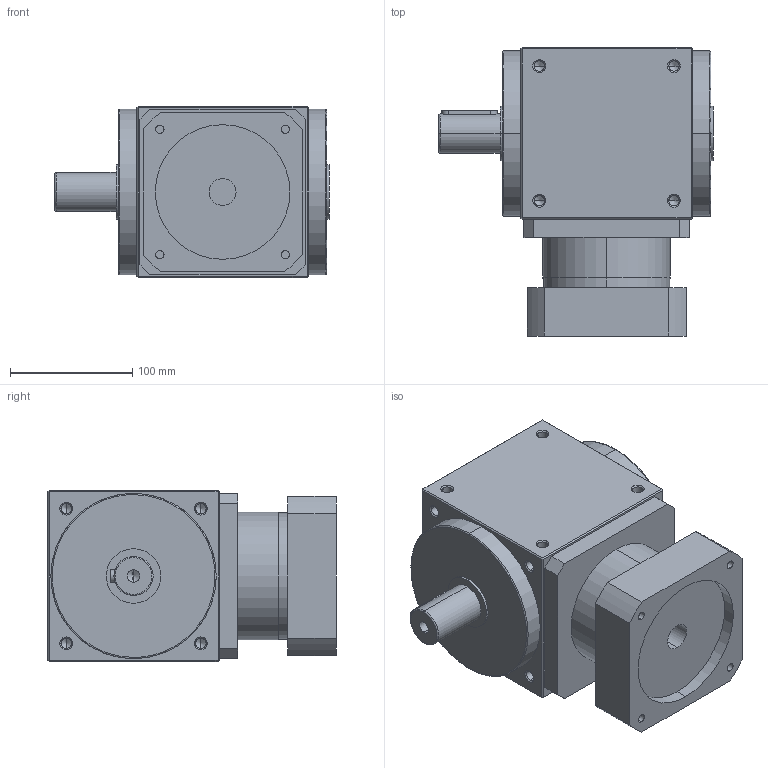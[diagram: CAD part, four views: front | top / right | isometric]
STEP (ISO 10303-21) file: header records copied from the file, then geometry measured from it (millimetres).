
FILE_DESCRIPTION (( 'STEP AP214' ), '1' );
FILE_NAME ('AT140-FH-001 22-110-145-M8.STEP', '2020-11-11T03:29:51', ( '微软用户' ), ( '微软中国' ), 'SwSTEP 2.0', 'SolidWorks 2014', '' );
FILE_SCHEMA (( 'AUTOMOTIVE_DESIGN' ));
Length unit declared in the file: millimetre
Products named in the file (2): AT140-FH-001 22-110-145-M8
Bounding box: 224 x 235.5 x 140 mm (x, y, z)
Volume: 4348916.1 mm3; surface area: 211889.9 mm2
Topology: 2 solids, 2 shells, 263 faces, 676 edges, 387 vertices
Faces by surface type: cylinder 114, cone 84, plane 59, bspline 6
Entity records: 10488 total; most frequent: CARTESIAN_POINT 1824, ORIENTED_EDGE 1268, DIRECTION 1238, EDGE_CURVE 634, AXIS2_PLACEMENT_3D 473, VERTEX_POINT 387, EDGE_LOOP 299, LINE 292
